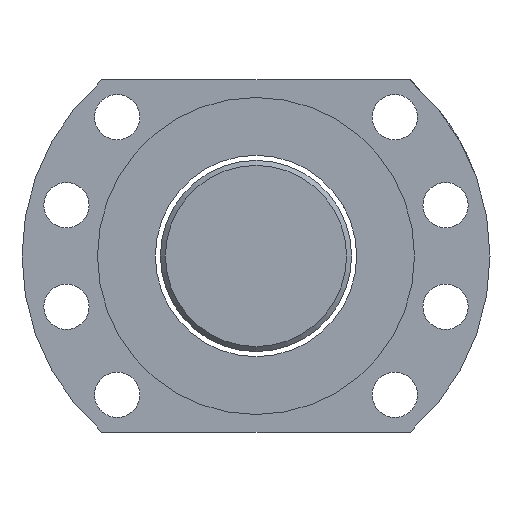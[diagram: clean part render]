
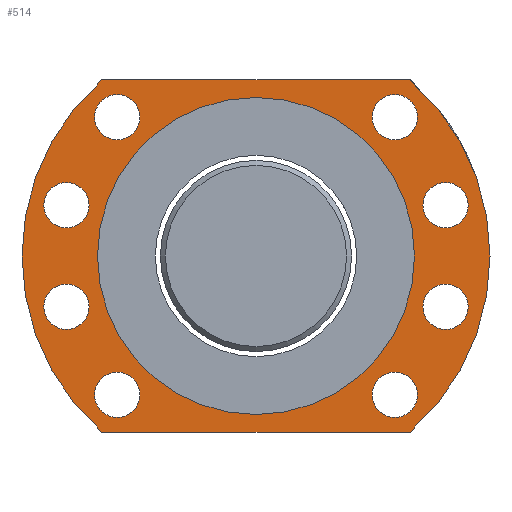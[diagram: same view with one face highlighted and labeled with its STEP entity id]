
A CAD part, left-side view. The second image highlights one B-rep face of the part: STEP entity #514.
In plain terms, the highlighted planar face has unit normal (-1, 0, 0).
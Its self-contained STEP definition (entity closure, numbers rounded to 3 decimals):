
#61=LINE('',#864,#69);
#64=LINE('',#870,#72);
#69=VECTOR('',#706,1000.);
#72=VECTOR('',#711,1000.);
#83=PLANE('',#605);
#161=ORIENTED_EDGE('',*,*,#229,.T.);
#162=ORIENTED_EDGE('',*,*,#231,.F.);
#163=ORIENTED_EDGE('',*,*,#235,.T.);
#164=ORIENTED_EDGE('',*,*,#253,.F.);
#165=ORIENTED_EDGE('',*,*,#250,.T.);
#166=ORIENTED_EDGE('',*,*,#247,.T.);
#167=ORIENTED_EDGE('',*,*,#217,.T.);
#168=ORIENTED_EDGE('',*,*,#244,.T.);
#169=ORIENTED_EDGE('',*,*,#243,.F.);
#170=ORIENTED_EDGE('',*,*,#241,.F.);
#171=ORIENTED_EDGE('',*,*,#239,.F.);
#172=ORIENTED_EDGE('',*,*,#237,.T.);
#173=ORIENTED_EDGE('',*,*,#233,.T.);
#217=EDGE_CURVE('',#271,#272,#316,.T.);
#229=EDGE_CURVE('',#283,#283,#322,.T.);
#231=EDGE_CURVE('',#285,#285,#324,.T.);
#233=EDGE_CURVE('',#287,#287,#326,.T.);
#235=EDGE_CURVE('',#289,#289,#328,.T.);
#237=EDGE_CURVE('',#291,#291,#330,.T.);
#239=EDGE_CURVE('',#293,#293,#332,.T.);
#241=EDGE_CURVE('',#295,#295,#334,.T.);
#243=EDGE_CURVE('',#297,#297,#336,.T.);
#244=EDGE_CURVE('',#272,#298,#61,.T.);
#247=EDGE_CURVE('',#300,#271,#64,.T.);
#250=EDGE_CURVE('',#298,#300,#337,.T.);
#253=EDGE_CURVE('',#303,#303,#340,.T.);
#271=VERTEX_POINT('',#782);
#272=VERTEX_POINT('',#783);
#283=VERTEX_POINT('',#827);
#285=VERTEX_POINT('',#832);
#287=VERTEX_POINT('',#837);
#289=VERTEX_POINT('',#842);
#291=VERTEX_POINT('',#847);
#293=VERTEX_POINT('',#852);
#295=VERTEX_POINT('',#857);
#297=VERTEX_POINT('',#862);
#298=VERTEX_POINT('',#865);
#300=VERTEX_POINT('',#871);
#303=VERTEX_POINT('',#882);
#316=CIRCLE('',#561,46.5);
#322=CIRCLE('',#569,4.5);
#324=CIRCLE('',#572,4.5);
#326=CIRCLE('',#575,4.5);
#328=CIRCLE('',#578,4.5);
#330=CIRCLE('',#581,4.5);
#332=CIRCLE('',#584,4.5);
#334=CIRCLE('',#587,4.5);
#336=CIRCLE('',#590,4.5);
#337=CIRCLE('',#594,46.5);
#340=CIRCLE('',#598,31.5);
#387=EDGE_LOOP('',(#161));
#388=EDGE_LOOP('',(#162));
#389=EDGE_LOOP('',(#163));
#390=EDGE_LOOP('',(#164));
#391=EDGE_LOOP('',(#165,#166,#167,#168));
#392=EDGE_LOOP('',(#169));
#393=EDGE_LOOP('',(#170));
#394=EDGE_LOOP('',(#171));
#395=EDGE_LOOP('',(#172));
#396=EDGE_LOOP('',(#173));
#458=FACE_BOUND('',#387,.T.);
#459=FACE_BOUND('',#388,.T.);
#460=FACE_BOUND('',#389,.T.);
#461=FACE_BOUND('',#390,.T.);
#462=FACE_BOUND('',#391,.T.);
#463=FACE_BOUND('',#392,.T.);
#464=FACE_BOUND('',#393,.T.);
#465=FACE_BOUND('',#394,.T.);
#466=FACE_BOUND('',#395,.T.);
#467=FACE_BOUND('',#396,.T.);
#514=ADVANCED_FACE('',(#458,#459,#460,#461,#462,#463,#464,#465,#466,#467),
#83,.T.);
#561=AXIS2_PLACEMENT_3D('',#781,#642,#643);
#569=AXIS2_PLACEMENT_3D('',#826,#660,#661);
#572=AXIS2_PLACEMENT_3D('',#831,#666,#667);
#575=AXIS2_PLACEMENT_3D('',#836,#672,#673);
#578=AXIS2_PLACEMENT_3D('',#841,#678,#679);
#581=AXIS2_PLACEMENT_3D('',#846,#684,#685);
#584=AXIS2_PLACEMENT_3D('',#851,#690,#691);
#587=AXIS2_PLACEMENT_3D('',#856,#696,#697);
#590=AXIS2_PLACEMENT_3D('',#861,#702,#703);
#594=AXIS2_PLACEMENT_3D('',#876,#716,#717);
#598=AXIS2_PLACEMENT_3D('',#881,#724,#725);
#605=AXIS2_PLACEMENT_3D('',#904,#738,#739);
#642=DIRECTION('',(-1.,0.,0.));
#643=DIRECTION('',(0.,0.,-1.));
#660=DIRECTION('',(1.,0.,0.));
#661=DIRECTION('',(0.,0.,1.));
#666=DIRECTION('',(-1.,0.,0.));
#667=DIRECTION('',(0.,0.,1.));
#672=DIRECTION('',(1.,0.,0.));
#673=DIRECTION('',(0.,0.,1.));
#678=DIRECTION('',(1.,0.,0.));
#679=DIRECTION('',(0.,0.,1.));
#684=DIRECTION('',(1.,0.,0.));
#685=DIRECTION('',(0.,0.,1.));
#690=DIRECTION('',(-1.,0.,0.));
#691=DIRECTION('',(0.,0.,1.));
#696=DIRECTION('',(-1.,0.,0.));
#697=DIRECTION('',(0.,0.,1.));
#702=DIRECTION('',(-1.,0.,0.));
#703=DIRECTION('',(0.,0.,1.));
#706=DIRECTION('',(0.,1.,0.));
#711=DIRECTION('',(0.,-1.,0.));
#716=DIRECTION('',(-1.,0.,0.));
#717=DIRECTION('',(0.,0.,-1.));
#724=DIRECTION('',(-1.,0.,0.));
#725=DIRECTION('',(0.,0.,-1.));
#738=DIRECTION('',(-1.,0.,0.));
#739=DIRECTION('',(0.,0.,-1.));
#781=CARTESIAN_POINT('',(124.817,39.99,-6.745));
#782=CARTESIAN_POINT('',(124.817,9.375,-41.745));
#783=CARTESIAN_POINT('',(124.817,9.375,28.255));
#826=CARTESIAN_POINT('',(124.817,12.413,20.832));
#827=CARTESIAN_POINT('',(124.817,12.413,25.332));
#831=CARTESIAN_POINT('',(124.817,67.567,20.832));
#832=CARTESIAN_POINT('',(124.817,67.567,25.332));
#836=CARTESIAN_POINT('',(124.817,2.319,3.349));
#837=CARTESIAN_POINT('',(124.817,2.319,7.849));
#841=CARTESIAN_POINT('',(124.817,2.319,-16.839));
#842=CARTESIAN_POINT('',(124.817,2.319,-12.339));
#846=CARTESIAN_POINT('',(124.817,12.413,-34.322));
#847=CARTESIAN_POINT('',(124.817,12.413,-29.822));
#851=CARTESIAN_POINT('',(124.817,67.567,-34.322));
#852=CARTESIAN_POINT('',(124.817,67.567,-29.822));
#856=CARTESIAN_POINT('',(124.817,77.661,3.349));
#857=CARTESIAN_POINT('',(124.817,77.661,7.849));
#861=CARTESIAN_POINT('',(124.817,77.661,-16.839));
#862=CARTESIAN_POINT('',(124.817,77.661,-12.339));
#864=CARTESIAN_POINT('',(124.817,9.375,28.255));
#865=CARTESIAN_POINT('',(124.817,70.604,28.255));
#870=CARTESIAN_POINT('',(124.817,70.604,-41.745));
#871=CARTESIAN_POINT('',(124.817,70.604,-41.745));
#876=CARTESIAN_POINT('',(124.817,39.99,-6.745));
#881=CARTESIAN_POINT('',(124.817,39.99,-6.745));
#882=CARTESIAN_POINT('',(124.817,39.99,-38.245));
#904=CARTESIAN_POINT('',(124.817,39.99,-6.745));
